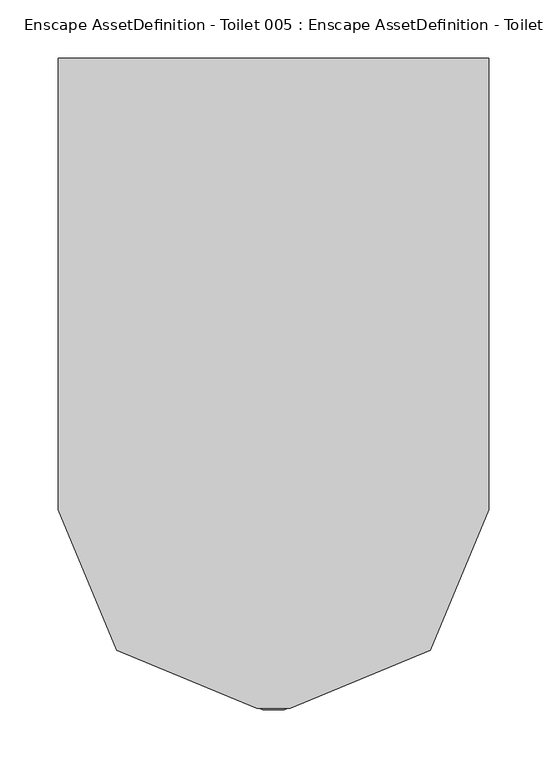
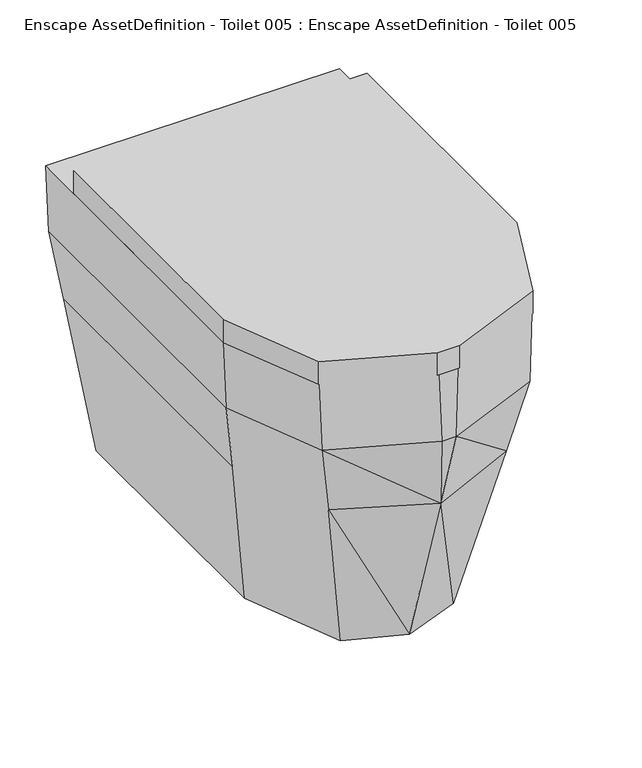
"""IFC4 building model written with IfcOpenShell, lengths in millimetres: geographic element geometry, Enscape AssetDefinition - Toilet 005 : Enscape AssetDefinition - Toilet 005."""

import ifcopenshell
import ifcopenshell.guid

model = None  # the IFC model being written
_history = None  # IfcOwnerHistory: only IFC2X3 demands one
_inside = {}  # id of a spatial element -> (the spatial element, [elements in it])
_under = {}  # id of a project, library or spatial element -> (it, [spatial elements below it])
_declared = {}  # id of a project -> (the project, [libraries it declares])
_typed = {}  # id of a type object -> (the type object, [elements of that type])
_made_of = {}  # id of a material, layer set ... -> (it, [elements and type objects made of it])


def new_model(schema):
    """Start an empty IFC model of exactly this schema.

    Asked for "IFC4X3", IfcOpenShell would pick the latest addendum, in which some entities
    have other attributes; the version numbers below select the first issue.
    IFC2X3 requires an IfcOwnerHistory on every rooted entity: one is made here for all.
    """
    global model, _history
    if schema == "IFC4X3":
        model = ifcopenshell.file(schema_version=(4, 3, 0, 0))
    else:
        model = ifcopenshell.file(schema=schema)
    _inside.clear()
    _under.clear()
    _declared.clear()
    _typed.clear()
    _made_of.clear()
    _history = None
    if model.schema == "IFC2X3":
        org = make("IfcOrganization", Name="unknown")
        user = make(
            "IfcPersonAndOrganization",
            ThePerson=make("IfcPerson", FamilyName="unknown"),
            TheOrganization=org,
        )
        app = make(
            "IfcApplication",
            ApplicationDeveloper=org,
            Version="unknown",
            ApplicationFullName="unknown",
            ApplicationIdentifier="unknown",
        )
        _history = make(
            "IfcOwnerHistory",
            OwningUser=user,
            OwningApplication=app,
            ChangeAction="ADDED",
            CreationDate=0,
        )
    return model


def make(cls, **values):
    """One entity of the class cls with the attributes given. An attribute that is None is left unset."""
    return model.create_entity(
        cls, **{name: value for name, value in values.items() if value is not None}
    )


def rooted(cls, **values):
    """An entity with a GlobalId (a new one), such as an element, a storey or a relation."""
    return make(cls, GlobalId=ifcopenshell.guid.new(), OwnerHistory=_history, **values)


def si_unit(unit_type, name, prefix=None):
    """IfcSIUnit, for example si_unit("LENGTHUNIT", "METRE", prefix="MILLI")."""
    return make("IfcSIUnit", UnitType=unit_type, Prefix=prefix, Name=name)


def assignment(units):
    """IfcUnitAssignment: the units of a project."""
    return None if units is None else make("IfcUnitAssignment", Units=units)


def point(xyz):
    """IfcCartesianPoint."""
    return None if xyz is None else make("IfcCartesianPoint", Coordinates=xyz)


def direction(xyz):
    """IfcDirection."""
    return None if xyz is None else make("IfcDirection", DirectionRatios=xyz)


def frame(location, z_axis=None, x_axis=None):
    """IfcAxis2Placement3D, a coordinate frame: its origin and axes. An axis left out is left unset."""
    return make(
        "IfcAxis2Placement3D",
        Location=point(location),
        Axis=direction(z_axis),
        RefDirection=direction(x_axis),
    )


def origin():
    """The frame at (0, 0, 0) with its axes left unset."""
    return frame((0.0, 0.0, 0.0))


def place(relative_to, where):
    """IfcLocalPlacement: puts the frame where relative to a parent placement (None: the world)."""
    return make(
        "IfcLocalPlacement", PlacementRelTo=relative_to, RelativePlacement=where
    )


def context(
    kind, dimensions, precision=None, world=None, true_north=None, identifier=None
):
    """IfcGeometricRepresentationContext, for example the 3D "Model" context."""
    return make(
        "IfcGeometricRepresentationContext",
        ContextIdentifier=identifier,
        ContextType=kind,
        CoordinateSpaceDimension=dimensions,
        Precision=precision,
        WorldCoordinateSystem=world,
        TrueNorth=true_north,
    )


def project(units=None, contexts=None):
    """IfcProject with its units and contexts."""
    return rooted(
        "IfcProject",
        Name="project",
        RepresentationContexts=contexts,
        UnitsInContext=assignment(units),
    )


def spatial(cls, under=None, at=None, **own):
    """A site, building, storey or space (cls), placed at a placement, below another one or the project."""
    s = rooted(cls, ObjectPlacement=at, **own)
    if under is not None:
        _under.setdefault(under.id(), (under, []))[1].append(s)
    return s


def point_list(points):
    """IfcCartesianPointList2D or 3D."""
    cls = (
        "IfcCartesianPointList2D" if len(points[0]) == 2 else "IfcCartesianPointList3D"
    )
    return make(cls, CoordList=points)


def triangles(points, corners, closed=None, point_numbers=None):
    """IfcTriangulatedFaceSet: each triangle names its three corners, points numbered from 1."""
    return make(
        "IfcTriangulatedFaceSet",
        Coordinates=point_list(points),
        Closed=closed,
        CoordIndex=corners,
        PnIndex=point_numbers,
    )


def shape(context_of_items, identifier, shape_type, items):
    """IfcShapeRepresentation: the items that make up one representation, for example the "Body"."""
    return make(
        "IfcShapeRepresentation",
        ContextOfItems=context_of_items,
        RepresentationIdentifier=identifier,
        RepresentationType=shape_type,
        Items=items,
    )


def source(mapping_origin, context_of_items, identifier, shape_type, items):
    """IfcRepresentationMap: a shape defined once, which mapped items show again and again."""
    return make(
        "IfcRepresentationMap",
        MappingOrigin=mapping_origin,
        MappedRepresentation=shape(context_of_items, identifier, shape_type, items),
    )


def transform(
    local_origin,
    x_axis=None,
    y_axis=None,
    z_axis=None,
    scale=None,
    scale2=None,
    scale3=None,
    uniform=True,
):
    """IfcCartesianTransformationOperator3D, or its non-uniform kind. x_axis, y_axis, z_axis: its Axis1, 2, 3."""
    if uniform:
        return make(
            "IfcCartesianTransformationOperator3D",
            Axis1=direction(x_axis),
            Axis2=direction(y_axis),
            LocalOrigin=point(local_origin),
            Scale=scale,
            Axis3=direction(z_axis),
        )
    return make(
        "IfcCartesianTransformationOperator3DnonUniform",
        Axis1=direction(x_axis),
        Axis2=direction(y_axis),
        LocalOrigin=point(local_origin),
        Scale=scale,
        Axis3=direction(z_axis),
        Scale2=scale2,
        Scale3=scale3,
    )


def mapped(mapping_source, mapping_target):
    """IfcMappedItem: shows the shape of a source again, moved by a transform."""
    return make(
        "IfcMappedItem", MappingSource=mapping_source, MappingTarget=mapping_target
    )


def made_of(thing, what):
    """Note that an element or type object is made of a material, layer set ...; save() writes the relation."""
    if what is not None:
        _made_of.setdefault(what.id(), (what, []))[1].append(thing)
    return thing


def element(
    cls,
    number,
    at=None,
    inside=None,
    cuts=None,
    type_object=None,
    material=None,
    context=None,
    identifier="Body",
    shape_type=None,
    held_by="IfcProductDefinitionShape",
    body=None,
    shapes=None,
    **own,
):
    """One element of the class cls, such as IfcWall. Its Tag is "e" and its number.

    at: its placement. inside: the storey or other place that contains it. cuts: it is an
    opening in that element (IfcRelVoidsElement). A single representation is given by context,
    identifier, shape_type and body (its items); several are given by shapes. held_by: the class
    of the entity that holds the representations. save() writes the other relations.
    """
    e = rooted(cls, Tag="e%d" % number, ObjectPlacement=at, **own)
    if body is not None:
        shapes = [shape(context, identifier, shape_type, body)]
    if shapes is not None:
        e.Representation = make(held_by, Representations=shapes)
    if inside is not None:
        _inside.setdefault(inside.id(), (inside, []))[1].append(e)
    if cuts is not None:
        rooted(
            "IfcRelVoidsElement", RelatingBuildingElement=cuts, RelatedOpeningElement=e
        )
    if type_object is not None:
        _typed.setdefault(type_object.id(), (type_object, []))[1].append(e)
    return made_of(e, material)


def aggregate(whole, parts):
    """IfcRelAggregates: a whole, such as a stair, and the parts it consists of."""
    return rooted("IfcRelAggregates", RelatingObject=whole, RelatedObjects=parts)


def save(model, path):
    """Write the relations noted so far, then the file.

    IfcRelAggregates (storeys below a building ...), IfcRelContainedInSpatialStructure (elements
    in a storey), IfcRelDefinesByType, IfcRelAssociatesMaterial and IfcRelDeclares: one each for
    every whole, place, type object, material and project.
    """
    for whole, parts in _under.values():
        aggregate(whole, parts)
    for where, things in _inside.values():
        rooted(
            "IfcRelContainedInSpatialStructure",
            RelatedElements=things,
            RelatingStructure=where,
        )
    for kind, things in _typed.values():
        rooted("IfcRelDefinesByType", RelatedObjects=things, RelatingType=kind)
    for what, things in _made_of.values():
        rooted("IfcRelAssociatesMaterial", RelatedObjects=things, RelatingMaterial=what)
    for by, libraries in _declared.values():
        rooted("IfcRelDeclares", RelatingContext=by, RelatedDefinitions=libraries)
    model.write(path)


def enscape_assetdefinition_toilet_005_enscape_assetdefinition_9791f3e8(model_context):
    return source(origin(), model_context, "Body", "Tessellation", [
        triangles([(161.9399882, 0.0, 215.3229943), (-161.9399882, 0.0, 215.3229943), (121.3869947, 0.0, 0.0), (121.3320017, -323.2920035, 0.0), (-121.3869947, 0.0, 0.0), (-70.900001, -445.0529943, 0.0), (-162.2090125, -367.7839826, 215.2460004), (-180.9970008, -385.9070043, 311.7539723), (-121.3320017, -323.2920035, 0.0), (0.0, -539.9280172, 215.2100106), (70.900001, -445.0529943, 0.0), (111.8979936, -489.5080207, 215.221002), (0.0, -472.1840055, 0.0), (-111.8979936, -489.5080207, 215.221002), (130.6910053, -507.5349727, 311.7060102), (9.1150005, -557.9140197, 311.687007), (12.3150005, -556.9319575, 400.0000031), (-9.1150005, -557.9140197, 311.687007), (-184.2370102, -385.0019723, 400.0000031), (-130.6910053, -507.5349727, 311.7060102), (-133.8729968, -506.5750022, 400.0000031), (-12.3150005, -556.9319575, 400.0000031), (133.8729968, -506.5750022, 400.0000031), (180.9970008, -385.9070043, 311.7539723), (184.2879882, 0.0, 400.0000031), (184.2370102, -385.0019723, 400.0000031), (-184.2879882, 0.0, 400.0000031), (180.7969949, 0.0, 311.9049806), (162.2090125, -367.7839826, 215.2460004), (-180.7969949, 0.0, 311.9049806), (184.2879882, -59.9999986, 430.0000251), (184.2399897, -386.931978, 400.0000031), (184.2399897, -386.931978, 430.0000251), (-184.2399897, -386.931978, 430.0000251), (-184.2879882, -59.9999986, 430.0000251), (184.2879882, -59.9999986, 400.0000031), (-184.2879882, -59.9999986, 400.0000031), (134.4300031, -507.139975, 400.0000031), (14.2150003, -556.9319575, 400.0000031), (-14.2150003, -556.9319575, 400.0000031), (-134.4300031, -507.139975, 400.0000031), (-184.2399897, -386.931978, 400.0000031), (-134.4300031, -507.139975, 430.0000251), (-14.2150003, -556.9319575, 430.0000251), (134.4300031, -507.139975, 430.0000251), (14.2150003, -556.9319575, 430.0000251)], [[33, 43, 44], [33, 44, 46], [46, 45, 33], [33, 45, 38], [45, 39, 38], [45, 46, 39], [46, 40, 39], [46, 44, 40], [44, 41, 40], [44, 43, 41], [43, 42, 41], [43, 34, 42], [33, 34, 43], [34, 37, 42], [41, 42, 37], [37, 40, 41], [37, 39, 40], [37, 38, 39], [33, 38, 32], [37, 32, 38], [37, 36, 32], [34, 35, 37], [35, 36, 37], [33, 35, 34], [31, 32, 36], [31, 33, 32], [35, 31, 36], [33, 31, 35], [30, 28, 1], [28, 29, 1], [28, 24, 29], [30, 25, 28], [25, 24, 28], [30, 27, 25], [27, 30, 8], [27, 8, 19], [26, 27, 19], [26, 25, 27], [25, 26, 24], [24, 26, 23], [29, 24, 15], [24, 23, 15], [15, 23, 17], [17, 23, 26], [26, 22, 17], [26, 21, 22], [26, 19, 21], [19, 20, 21], [19, 8, 20], [21, 18, 22], [21, 20, 18], [15, 17, 16], [16, 22, 18], [16, 17, 22], [12, 15, 16], [29, 15, 12], [12, 16, 10], [10, 18, 20], [16, 18, 10], [14, 20, 8], [10, 20, 14], [13, 14, 6], [13, 10, 14], [10, 11, 12], [10, 13, 11], [12, 4, 29], [12, 11, 4], [1, 29, 4], [13, 6, 9], [9, 11, 13], [9, 4, 11], [14, 8, 7], [6, 7, 9], [6, 14, 7], [7, 5, 9], [9, 3, 4], [9, 5, 3], [1, 4, 3], [7, 2, 5], [8, 2, 7], [8, 30, 2], [30, 1, 2], [2, 3, 5], [2, 1, 3]]),
    ])


if __name__ == "__main__":
    model = new_model("IFC4")
    model_context = context("Model", 3, world=origin())
    ifc_project = project(units=[si_unit("LENGTHUNIT", "METRE", prefix="MILLI")], contexts=[model_context])
    site = spatial("IfcSite", under=ifc_project)
    building = spatial("IfcBuilding", under=site)
    placement = place(None, origin())
    enscape_assetdefinition_toilet_005_enscape_assetdefinition_shape = enscape_assetdefinition_toilet_005_enscape_assetdefinition_9791f3e8(model_context)
    element("IfcGeographicElement", 1, ObjectType="Enscape AssetDefinition - Toilet 005 : Enscape AssetDefinition - Toilet 005", at=placement, inside=building, context=model_context, shape_type="MappedRepresentation", body=[
        mapped(enscape_assetdefinition_toilet_005_enscape_assetdefinition_shape, transform((0.0, 0.0, 0.0), x_axis=(1.0, 0.0, 0.0), y_axis=(0.0, 1.0, 0.0), z_axis=(0.0, 0.0, 1.0))),
    ])
    save(model, "model.ifc")
